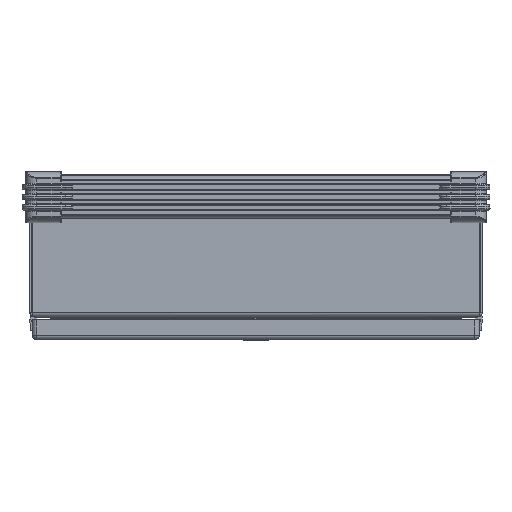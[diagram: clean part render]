
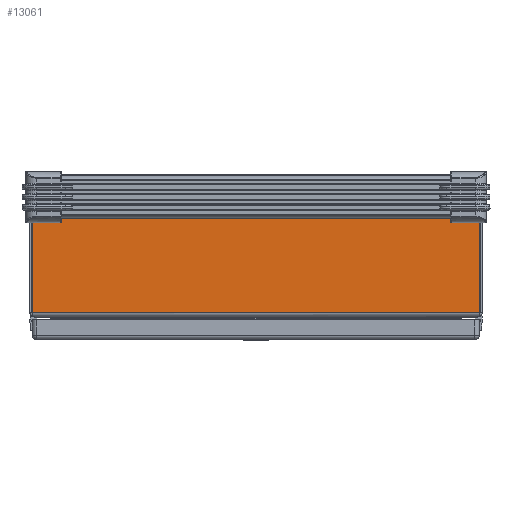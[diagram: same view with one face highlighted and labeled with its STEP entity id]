
A CAD part, left-side view. The second image highlights one B-rep face of the part: STEP entity #13061.
In plain terms, the highlighted planar face has unit normal (-1, 0, 0) as drawn and (1, 0, 0) by its records, which use the part's own axes.
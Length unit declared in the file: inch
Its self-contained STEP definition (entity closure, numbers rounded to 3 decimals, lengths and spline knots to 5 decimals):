
#4962 = LINE ( 'NONE', #11970, #4978 ) ;
#4978 = VECTOR ( 'NONE', #11963, 39.37008 ) ;
#5447 = LINE ( 'NONE', #11706, #5450 ) ;
#5450 = VECTOR ( 'NONE', #11705, 39.37008 ) ;
#5565 = CIRCLE ( 'NONE', #7046, 0.109 ) ;
#5578 = CIRCLE ( 'NONE', #7061, 0.109 ) ;
#5655 = VECTOR ( 'NONE', #11589, 39.37008 ) ;
#5664 = CIRCLE ( 'NONE', #7071, 0.109 ) ;
#5667 = LINE ( 'NONE', #11595, #5670 ) ;
#5670 = VECTOR ( 'NONE', #11594, 39.37008 ) ;
#5680 = LINE ( 'NONE', #11597, #5655 ) ;
#7046 = AXIS2_PLACEMENT_3D ( 'NONE', #11667, #11654, #11651 ) ;
#7061 = AXIS2_PLACEMENT_3D ( 'NONE', #11655, #11646, #11645 ) ;
#7071 = AXIS2_PLACEMENT_3D ( 'NONE', #11603, #11602, #11601 ) ;
#8479 = CARTESIAN_POINT ( 'NONE',  ( 9.8435, -5.8065, 0.662 ) ) ;
#8481 = CARTESIAN_POINT ( 'NONE',  ( 9.8435, -5.8065, 0.444 ) ) ;
#8492 = CARTESIAN_POINT ( 'NONE',  ( 9.8435, 0., 0.662 ) ) ;
#8494 = CARTESIAN_POINT ( 'NONE',  ( 9.8435, 0., 0.444 ) ) ;
#8504 = CARTESIAN_POINT ( 'NONE',  ( 9.8435, 5.8065, 0.662 ) ) ;
#8505 = CARTESIAN_POINT ( 'NONE',  ( 9.8435, 5.8065, 0.444 ) ) ;
#8508 = CIRCLE ( 'NONE', #26823, 0.109 ) ;
#8567 = CIRCLE ( 'NONE', #26863, 0.109 ) ;
#8626 = CIRCLE ( 'NONE', #26909, 0.109 ) ;
#8645 = CARTESIAN_POINT ( 'NONE',  ( 9.8435, -7.79493, 0.132 ) ) ;
#8649 = CARTESIAN_POINT ( 'NONE',  ( 9.8435, -7.79493, 4.564 ) ) ;
#8691 = CARTESIAN_POINT ( 'NONE',  ( 9.8435, 7.79493, 4.564 ) ) ;
#8694 = CARTESIAN_POINT ( 'NONE',  ( 9.8435, 7.79493, 0.132 ) ) ;
#11589 = DIRECTION ( 'NONE',  ( 0., 1., 0. ) ) ;
#11594 = DIRECTION ( 'NONE',  ( 0., 1., 0. ) ) ;
#11595 = CARTESIAN_POINT ( 'NONE',  ( 9.8435, -106.309, 4.564 ) ) ;
#11597 = CARTESIAN_POINT ( 'NONE',  ( 9.8435, -106.309, 0.132 ) ) ;
#11601 = DIRECTION ( 'NONE',  ( 0., 0., -1. ) ) ;
#11602 = DIRECTION ( 'NONE',  ( 1., 0., 0. ) ) ;
#11603 = CARTESIAN_POINT ( 'NONE',  ( 9.8435, 0., 0.553 ) ) ;
#11645 = DIRECTION ( 'NONE',  ( 0., 0., -1. ) ) ;
#11646 = DIRECTION ( 'NONE',  ( 1., 0., 0. ) ) ;
#11651 = DIRECTION ( 'NONE',  ( 0., 0., -1. ) ) ;
#11654 = DIRECTION ( 'NONE',  ( 1., 0., 0. ) ) ;
#11655 = CARTESIAN_POINT ( 'NONE',  ( 9.8435, 5.8065, 0.553 ) ) ;
#11667 = CARTESIAN_POINT ( 'NONE',  ( 9.8435, -5.8065, 0.553 ) ) ;
#11705 = DIRECTION ( 'NONE',  ( 0., 0., 1. ) ) ;
#11706 = CARTESIAN_POINT ( 'NONE',  ( 9.8435, 7.79493, 4.564 ) ) ;
#11963 = DIRECTION ( 'NONE',  ( 0., 0., -1. ) ) ;
#11970 = CARTESIAN_POINT ( 'NONE',  ( 9.8435, -7.79493, 4.564 ) ) ;
#13061 = ADVANCED_FACE ( 'NONE', ( #40463, #40468, #40470, #40472 ), #33047, .T. ) ;
#18053 = ORIENTED_EDGE ( 'NONE', *, *, #40151, .T. ) ;
#18054 = ORIENTED_EDGE ( 'NONE', *, *, #40025, .T. ) ;
#18055 = ORIENTED_EDGE ( 'NONE', *, *, #40149, .F. ) ;
#18056 = ORIENTED_EDGE ( 'NONE', *, *, #40113, .T. ) ;
#18057 = ORIENTED_EDGE ( 'NONE', *, *, #40133, .F. ) ;
#18058 = ORIENTED_EDGE ( 'NONE', *, *, #39793, .F. ) ;
#18059 = ORIENTED_EDGE ( 'NONE', *, *, #40147, .F. ) ;
#18060 = ORIENTED_EDGE ( 'NONE', *, *, #39777, .F. ) ;
#18061 = ORIENTED_EDGE ( 'NONE', *, *, #40131, .F. ) ;
#18062 = ORIENTED_EDGE ( 'NONE', *, *, #39761, .F. ) ;
#25348 = AXIS2_PLACEMENT_3D ( 'NONE', #33046, #33045, #33044 ) ;
#26823 = AXIS2_PLACEMENT_3D ( 'NONE', #65936, #65674, #65930 ) ;
#26863 = AXIS2_PLACEMENT_3D ( 'NONE', #65902, #65897, #65896 ) ;
#26909 = AXIS2_PLACEMENT_3D ( 'NONE', #65651, #65862, #65861 ) ;
#33044 = DIRECTION ( 'NONE',  ( 0., 0., -1. ) ) ;
#33045 = DIRECTION ( 'NONE',  ( 1., 0., 0. ) ) ;
#33046 = CARTESIAN_POINT ( 'NONE',  ( 9.8435, -106.309, 4.564 ) ) ;
#33047 = PLANE ( 'NONE',  #25348 ) ;
#39761 = EDGE_CURVE ( 'NONE', #48580, #48578, #8508, .T. ) ;
#39777 = EDGE_CURVE ( 'NONE', #48566, #48564, #8567, .T. ) ;
#39793 = EDGE_CURVE ( 'NONE', #48552, #48550, #8626, .T. ) ;
#40025 = EDGE_CURVE ( 'NONE', #48452, #48454, #4962, .T. ) ;
#40113 = EDGE_CURVE ( 'NONE', #48424, #48426, #5447, .T. ) ;
#40131 = EDGE_CURVE ( 'NONE', #48578, #48580, #5565, .T. ) ;
#40133 = EDGE_CURVE ( 'NONE', #48550, #48552, #5578, .T. ) ;
#40147 = EDGE_CURVE ( 'NONE', #48564, #48566, #5664, .T. ) ;
#40149 = EDGE_CURVE ( 'NONE', #48452, #48426, #5667, .T. ) ;
#40151 = EDGE_CURVE ( 'NONE', #48454, #48424, #5680, .T. ) ;
#40463 = FACE_BOUND ( 'NONE', #57479, .T. ) ;
#40468 = FACE_BOUND ( 'NONE', #57500, .T. ) ;
#40470 = FACE_BOUND ( 'NONE', #57501, .T. ) ;
#40472 = FACE_OUTER_BOUND ( 'NONE', #57502, .T. ) ;
#48424 = VERTEX_POINT ( 'NONE', #8694 ) ;
#48426 = VERTEX_POINT ( 'NONE', #8691 ) ;
#48452 = VERTEX_POINT ( 'NONE', #8649 ) ;
#48454 = VERTEX_POINT ( 'NONE', #8645 ) ;
#48550 = VERTEX_POINT ( 'NONE', #8505 ) ;
#48552 = VERTEX_POINT ( 'NONE', #8504 ) ;
#48564 = VERTEX_POINT ( 'NONE', #8494 ) ;
#48566 = VERTEX_POINT ( 'NONE', #8492 ) ;
#48578 = VERTEX_POINT ( 'NONE', #8481 ) ;
#48580 = VERTEX_POINT ( 'NONE', #8479 ) ;
#57479 = EDGE_LOOP ( 'NONE', ( #18062, #18061 ) ) ;
#57500 = EDGE_LOOP ( 'NONE', ( #18060, #18059 ) ) ;
#57501 = EDGE_LOOP ( 'NONE', ( #18058, #18057 ) ) ;
#57502 = EDGE_LOOP ( 'NONE', ( #18056, #18055, #18054, #18053 ) ) ;
#65651 = CARTESIAN_POINT ( 'NONE',  ( 9.8435, 5.8065, 0.553 ) ) ;
#65674 = DIRECTION ( 'NONE',  ( 1., 0., 0. ) ) ;
#65861 = DIRECTION ( 'NONE',  ( 0., 0., -1. ) ) ;
#65862 = DIRECTION ( 'NONE',  ( 1., 0., 0. ) ) ;
#65896 = DIRECTION ( 'NONE',  ( 0., 0., -1. ) ) ;
#65897 = DIRECTION ( 'NONE',  ( 1., 0., 0. ) ) ;
#65902 = CARTESIAN_POINT ( 'NONE',  ( 9.8435, 0., 0.553 ) ) ;
#65930 = DIRECTION ( 'NONE',  ( 0., 0., -1. ) ) ;
#65936 = CARTESIAN_POINT ( 'NONE',  ( 9.8435, -5.8065, 0.553 ) ) ;
